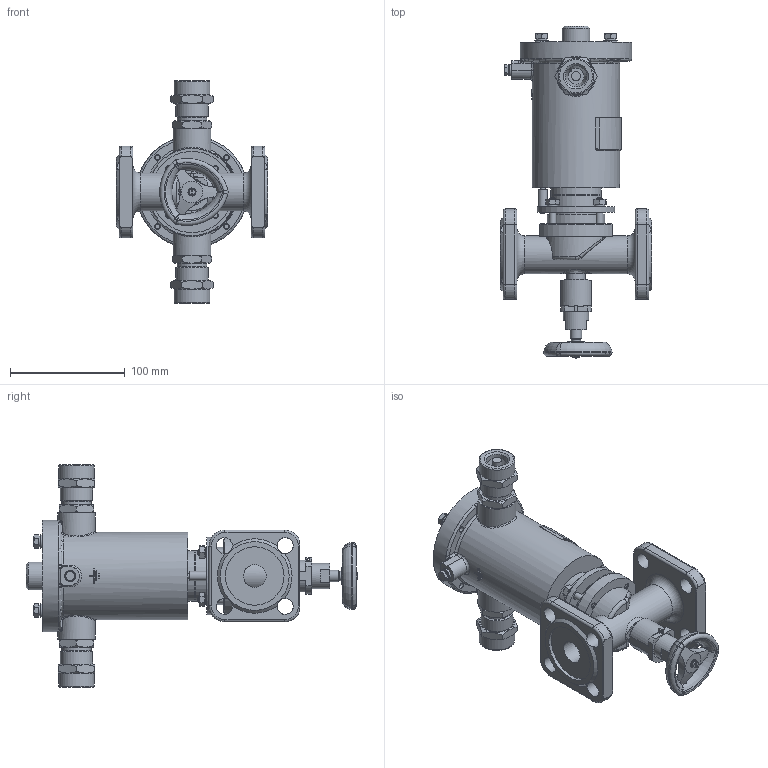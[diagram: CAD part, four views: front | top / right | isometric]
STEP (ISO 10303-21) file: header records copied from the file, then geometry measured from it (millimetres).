
FILE_DESCRIPTION(('STEP AP203'), '1');
FILE_NAME('ÑÅÍÑ-ÏÔ DN20PN25-ÑÂ.stp', '2018-10-09T08:09:45', ('Îðëîâ Å.Â.'), ('ÎÎÎ ÍÏÏ Ñåíñîð'), 'ASCON STEP Converter 1.3', 'Kompas 3D', '');
FILE_SCHEMA(('CONFIG_CONTROL_DESIGN','SUPPORT_RESOURCE_SCHEMA'));
Length unit declared in the file: millimetre
Products named in the file (1): 69
Bounding box: 132 x 289.5 x 194 mm (x, y, z)
Volume: 683551.5 mm3; surface area: 224235.1 mm2
Topology: 3 solids, 19 shells, 2083 faces, 5594 edges, 3655 vertices
Faces by surface type: cylinder 1021, plane 778, cone 139, torus 84, bspline 45, extrusion 16
Full cylindrical faces by diameter (mm): 2 x1, 2.459 x5, 3 x1, 3.2 x1, 4 x8, 4.134 x1, 4.5 x2, 4.917 x8, 5 x2, 5.5 x1, 6 x15, 6.5 x10, 7 x1, 7.8 x1, 8 x7, 10 x3, 12 x4, 13 x2, 14 x8, 15.75 x1, 16 x3, 18.632 x2, 20 x5, 21 x1, 22 x4, 22.376 x2, 23.5 x3, 24 x4, 24.5 x3, 25 x2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
Entity records: 83753 total; most frequent: CARTESIAN_POINT 30524, DIRECTION 11421, ORIENTED_EDGE 11162, EDGE_CURVE 5581, AXIS2_PLACEMENT_3D 4413, VERTEX_POINT 3655, VECTOR 2595, LINE 2579
